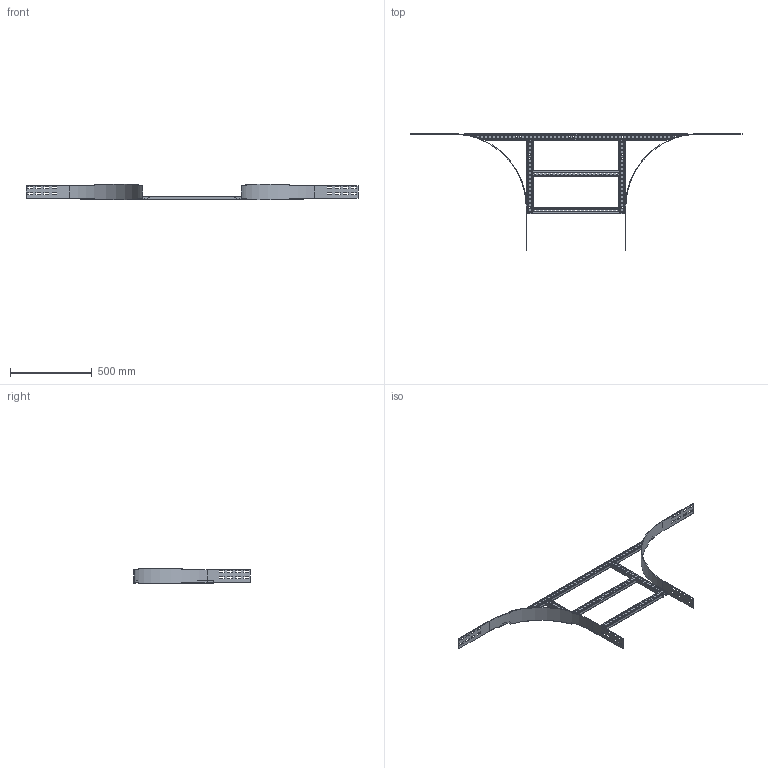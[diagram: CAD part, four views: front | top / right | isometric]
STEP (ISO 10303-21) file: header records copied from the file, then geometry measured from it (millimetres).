
FILE_DESCRIPTION(('Creo Elements/Direct Modeling STEP Export'),'2;1');
FILE_NAME('WPBP10-60-45.stp','2016-06-03T11:47:06',(''),(''),'PTC Creo Elements/Direct Modeling STEP processor for AP214 (Solid Model)','PTC Creo Elements/Direct Modeling 19.0C 15-Aug-2015 (C) Parametric Technology GmbH','');
FILE_SCHEMA(('AUTOMOTIVE_DESIGN { 1 0 10303 214 1 1 1 1 }'));
Length unit declared in the file: millimetre
Products named in the file (5): WPAAIG_100-450; WPAASP2; WPKS60; WPAASP1; WPBP10-60-45
Assembly tree (7 placements, depth 2):
  WPBP10-60-45
    WPAASP1
    WPAASP2  x2
    WPKS60  x2
    WPAAIG_100-450  x2
Bounding box: 2035 x 715 x 95 mm (x, y, z)
Volume: 1044025.6 mm3; surface area: 1055909 mm2
Topology: 7 solids, 7 shells, 881 faces, 2601 edges, 1734 vertices
Faces by surface type: plane 531, cylinder 350
Entity records: 19345 total; most frequent: ORIENTED_EDGE 3330, CARTESIAN_POINT 3323, DIRECTION 3251, EDGE_CURVE 1665, VECTOR 1175, LINE 1175, VERTEX_POINT 1110, AXIS2_PLACEMENT_3D 1038
